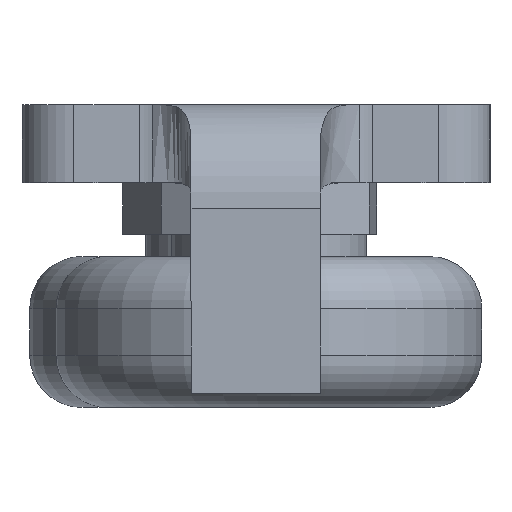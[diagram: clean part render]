
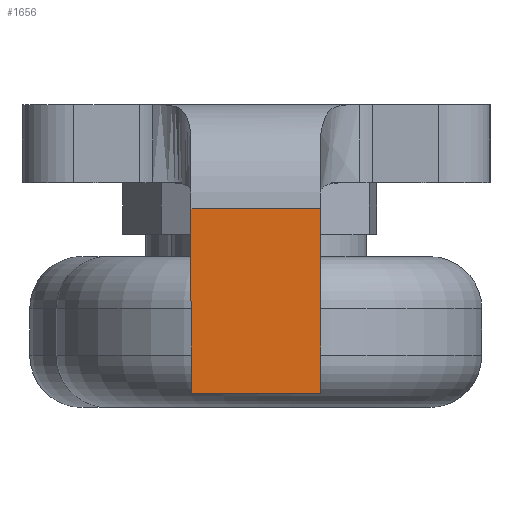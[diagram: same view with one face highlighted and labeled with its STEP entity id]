
A CAD part, left-side view. The second image highlights one B-rep face of the part: STEP entity #1656.
In plain terms, the highlighted planar face has unit normal (-1, 0, 0).
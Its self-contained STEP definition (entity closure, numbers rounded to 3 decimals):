
#6 = EDGE_LOOP ( 'NONE', ( #2596, #273, #728, #1876 ) ) ;
#273 = ORIENTED_EDGE ( 'NONE', *, *, #2014, .T. ) ;
#520 = VERTEX_POINT ( 'NONE', #2974 ) ;
#556 = CARTESIAN_POINT ( 'NONE',  ( -40., 0., -4. ) ) ;
#561 = PLANE ( 'NONE',  #3098 ) ;
#728 = ORIENTED_EDGE ( 'NONE', *, *, #3012, .T. ) ;
#818 = DIRECTION ( 'NONE',  ( 0., 0., 1. ) ) ;
#827 = VECTOR ( 'NONE', #3100, 1000. ) ;
#876 = VERTEX_POINT ( 'NONE', #2960 ) ;
#932 = VECTOR ( 'NONE', #1140, 1000. ) ;
#1140 = DIRECTION ( 'NONE',  ( 0., 0., 1. ) ) ;
#1404 = LINE ( 'NONE', #2434, #932 ) ;
#1539 = LINE ( 'NONE', #2851, #827 ) ;
#1543 = LINE ( 'NONE', #3142, #2750 ) ;
#1584 = CARTESIAN_POINT ( 'NONE',  ( -40., 0., 0. ) ) ;
#1656 = ADVANCED_FACE ( 'NONE', ( #1837 ), #561, .T. ) ;
#1795 = EDGE_CURVE ( 'NONE', #3290, #3007, #1543, .T. ) ;
#1837 = FACE_OUTER_BOUND ( 'NONE', #6, .T. ) ;
#1838 = EDGE_CURVE ( 'NONE', #3007, #876, #1539, .T. ) ;
#1876 = ORIENTED_EDGE ( 'NONE', *, *, #1838, .F. ) ;
#2014 = EDGE_CURVE ( 'NONE', #3290, #520, #1404, .T. ) ;
#2050 = CARTESIAN_POINT ( 'NONE',  ( -40., 2.5, -11.1 ) ) ;
#2356 = DIRECTION ( 'NONE',  ( 0., 1., 0. ) ) ;
#2434 = CARTESIAN_POINT ( 'NONE',  ( -40., -2.5, -11.1 ) ) ;
#2578 = DIRECTION ( 'NONE',  ( 0., 1., 0. ) ) ;
#2596 = ORIENTED_EDGE ( 'NONE', *, *, #1795, .F. ) ;
#2611 = LINE ( 'NONE', #556, #3284 ) ;
#2617 = DIRECTION ( 'NONE',  ( -1., 0., 0. ) ) ;
#2750 = VECTOR ( 'NONE', #2356, 1000. ) ;
#2851 = CARTESIAN_POINT ( 'NONE',  ( -40., 2.5, -11.1 ) ) ;
#2960 = CARTESIAN_POINT ( 'NONE',  ( -40., 2.5, -4. ) ) ;
#2974 = CARTESIAN_POINT ( 'NONE',  ( -40., -2.5, -4. ) ) ;
#3007 = VERTEX_POINT ( 'NONE', #2050 ) ;
#3012 = EDGE_CURVE ( 'NONE', #520, #876, #2611, .T. ) ;
#3098 = AXIS2_PLACEMENT_3D ( 'NONE', #1584, #2617, #818 ) ;
#3100 = DIRECTION ( 'NONE',  ( 0., 0., 1. ) ) ;
#3142 = CARTESIAN_POINT ( 'NONE',  ( -40., 9., -11.1 ) ) ;
#3236 = CARTESIAN_POINT ( 'NONE',  ( -40., -2.5, -11.1 ) ) ;
#3284 = VECTOR ( 'NONE', #2578, 1000. ) ;
#3290 = VERTEX_POINT ( 'NONE', #3236 ) ;
